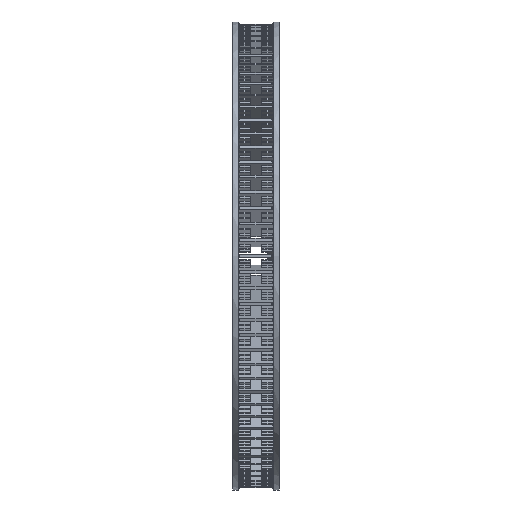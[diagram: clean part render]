
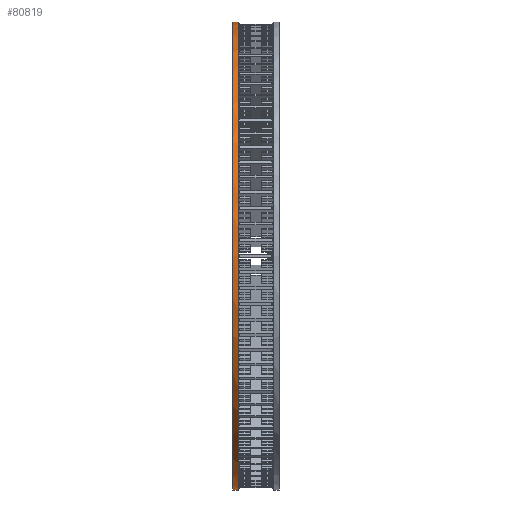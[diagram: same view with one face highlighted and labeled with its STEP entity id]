
A CAD part, left-side view. The second image highlights one B-rep face of the part: STEP entity #80819.
In plain terms, the highlighted cylindrical face has radius 508 mm (diameter 1016 mm), a partial arc.
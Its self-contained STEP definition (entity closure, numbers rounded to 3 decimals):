
#5447 = VERTEX_POINT ( 'NONE', #133592 ) ;
#9754 = ORIENTED_EDGE ( 'NONE', *, *, #139236, .F. ) ;
#11412 = AXIS2_PLACEMENT_3D ( 'NONE', #134559, #103837, #27814 ) ;
#27814 = DIRECTION ( 'NONE',  ( 0., 0., -1. ) ) ;
#29809 = LINE ( 'NONE', #172975, #106194 ) ;
#35422 = CARTESIAN_POINT ( 'NONE',  ( 0., 101.5, 508. ) ) ;
#44680 = CARTESIAN_POINT ( 'NONE',  ( 0., 88.7, 0. ) ) ;
#45461 = DIRECTION ( 'NONE',  ( 0., 1., 0. ) ) ;
#48130 = CIRCLE ( 'NONE', #134148, 508. ) ;
#59963 = DIRECTION ( 'NONE',  ( 0., 0., 1. ) ) ;
#76596 = CIRCLE ( 'NONE', #86445, 508. ) ;
#80819 = ADVANCED_FACE ( 'NONE', ( #81299 ), #112379, .T. ) ;
#81299 = FACE_OUTER_BOUND ( 'NONE', #98687, .T. ) ;
#85375 = ORIENTED_EDGE ( 'NONE', *, *, #134327, .F. ) ;
#86445 = AXIS2_PLACEMENT_3D ( 'NONE', #136897, #45461, #152220 ) ;
#87217 = VERTEX_POINT ( 'NONE', #121446 ) ;
#98687 = EDGE_LOOP ( 'NONE', ( #9754, #85375, #110659, #195359 ) ) ;
#102616 = VERTEX_POINT ( 'NONE', #163404 ) ;
#103837 = DIRECTION ( 'NONE',  ( 0., -1., 0. ) ) ;
#106194 = VECTOR ( 'NONE', #188313, 1000. ) ;
#110659 = ORIENTED_EDGE ( 'NONE', *, *, #145081, .T. ) ;
#112379 = CYLINDRICAL_SURFACE ( 'NONE', #11412, 508. ) ;
#112742 = EDGE_CURVE ( 'NONE', #5447, #87217, #48130, .T. ) ;
#113647 = VECTOR ( 'NONE', #157329, 1000. ) ;
#118447 = LINE ( 'NONE', #172002, #113647 ) ;
#121446 = CARTESIAN_POINT ( 'NONE',  ( 0., 88.7, -508. ) ) ;
#133592 = CARTESIAN_POINT ( 'NONE',  ( 0., 88.7, 508. ) ) ;
#134148 = AXIS2_PLACEMENT_3D ( 'NONE', #44680, #151447, #59963 ) ;
#134327 = EDGE_CURVE ( 'NONE', #102616, #182558, #76596, .T. ) ;
#134559 = CARTESIAN_POINT ( 'NONE',  ( 0., 0., 0. ) ) ;
#136897 = CARTESIAN_POINT ( 'NONE',  ( 0., 101.5, 0. ) ) ;
#139236 = EDGE_CURVE ( 'NONE', #182558, #5447, #118447, .T. ) ;
#145081 = EDGE_CURVE ( 'NONE', #102616, #87217, #29809, .T. ) ;
#151447 = DIRECTION ( 'NONE',  ( 0., -1., 0. ) ) ;
#152220 = DIRECTION ( 'NONE',  ( 0., 0., 1. ) ) ;
#157329 = DIRECTION ( 'NONE',  ( 0., -1., 0. ) ) ;
#163404 = CARTESIAN_POINT ( 'NONE',  ( 0., 101.5, -508. ) ) ;
#172002 = CARTESIAN_POINT ( 'NONE',  ( 0., 0., 508. ) ) ;
#172975 = CARTESIAN_POINT ( 'NONE',  ( 0., 0., -508. ) ) ;
#182558 = VERTEX_POINT ( 'NONE', #35422 ) ;
#188313 = DIRECTION ( 'NONE',  ( 0., -1., 0. ) ) ;
#195359 = ORIENTED_EDGE ( 'NONE', *, *, #112742, .F. ) ;
